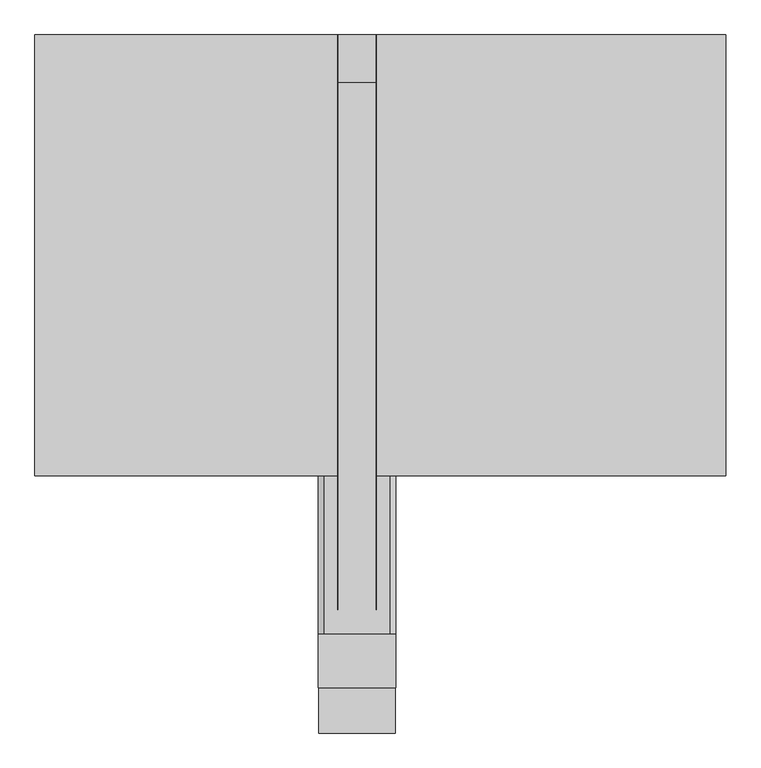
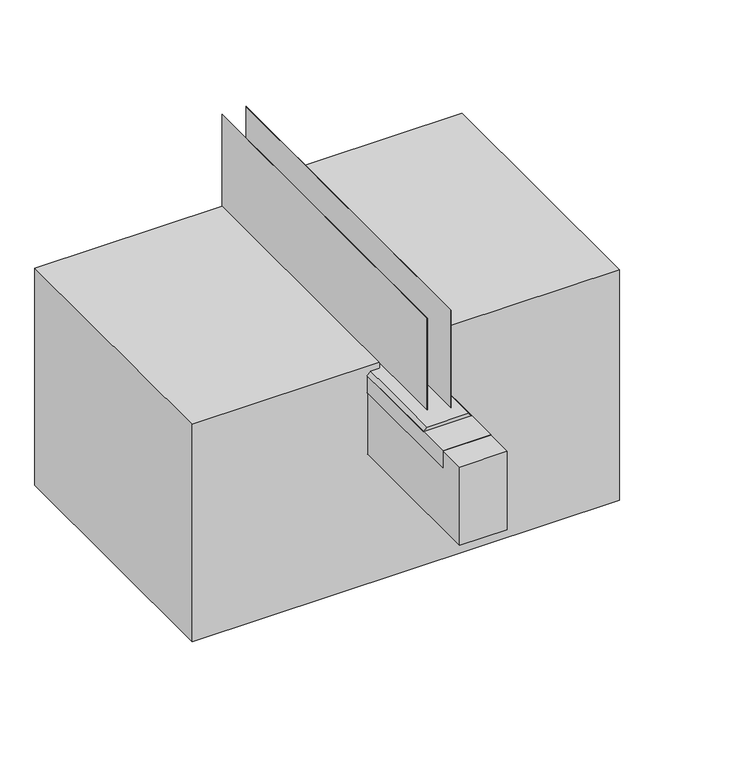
"""IFC4 building model written with IfcOpenShell, lengths in millimetres: proxy geometry, IMPER:IMPER:433934 : IMPER:IMPER:433934."""

from ifc_helpers import new_model, si_unit, frame, origin, place, context, project, spatial, polyline, outline, extrude, source, transform, mapped, element, save


def generic_models_f88ea9ae(model_context):
    return source(origin(), model_context, "Body", "SweptSolid", [
        extrude(outline(polyline([(-601.3780272, -223.9704105), (-572.523798, -252.8246398), (-572.523798, -601.1161813), (-601.3780272, -629.9704105), (-601.3780272, -223.9704105)])), frame((0.0, -2978.6796584, 0.0), z_axis=(0.0, 1.0, 0.0), x_axis=(0.0, 0.0, 1.0)), (0.0, 0.0, 1.0), 2874.5496779),
        extrude(outline(polyline([(-326.9704105, 145.8700195), (-325.9704105, 145.8700195), (-325.9704105, -2854.1299805), (-326.9704105, -2854.1299805), (-326.9704105, 145.8700195)])), frame((0.0, 0.0, -572.523798), z_axis=(0.0, 0.0, 1.0), x_axis=(1.0, 0.0, 0.0)), (0.0, 0.0, 1.0), 870.0),
        extrude(outline(polyline([(-527.9704105, 145.8700195), (-526.9704105, 145.8700195), (-526.9704105, -2854.1299805), (-527.9704105, -2854.1299805), (-527.9704105, 145.8700195)])), frame((0.0, 0.0, -520.527667), z_axis=(0.0, 0.0, 1.0), x_axis=(1.0, 0.0, 0.0)), (0.0, 0.0, 1.0), 818.003869),
        extrude(outline(polyline([(-604.3780272, -626.9704105), (-604.3780272, -226.9704105), (-754.3780272, -226.9704105), (-754.3780272, -223.9704105), (-601.3780272, -223.9704105), (-601.3780272, -629.9704105), (-754.3780272, -629.9704105), (-754.3780272, -626.9704105), (-604.3780272, -626.9704105)])), frame((0.0, -3261.3095935, 0.0), z_axis=(0.0, 1.0, 0.0), x_axis=(0.0, 0.0, 1.0)), (0.0, 0.0, 1.0), 3157.179613),
        extrude(outline(polyline([(-572.523798, -326.9704105), (-572.523798, -252.8246398), (-601.3780272, -223.9704105), (-754.3780272, -223.9704105), (-754.3780272, -226.9704105), (-1304.3780272, -226.9704105), (-1304.3780272, -626.9704105), (-754.3780272, -626.9704105), (-754.3780272, -629.9704105), (-601.3780272, -629.9704105), (-572.523798, -601.1161813), (-572.523798, -526.9704105), (-520.527667, -526.9704105), (-520.527667, -2108.6071009), (-2459.4927087, -2108.6071009), (-2459.4927087, 1498.0295895), (-402.523798, 1498.0295895), (-402.523798, -326.9704105), (-572.523798, -326.9704105)])), frame((0.0, -2154.1299805, 0.0), z_axis=(0.0, 1.0, 0.0), x_axis=(0.0, 0.0, 1.0)), (0.0, 0.0, 1.0), 2300.0),
        extrude(outline(polyline([(-626.9704105, 145.8700195), (-226.9704105, 145.8700195), (-226.9704105, -3498.0442835), (-626.9704105, -3498.0442835), (-626.9704105, 145.8700195)])), frame((0.0, 0.0, -1304.3780272), z_axis=(0.0, 0.0, 1.0), x_axis=(1.0, 0.0, 0.0)), (0.0, 0.0, 1.0), 700.0),
    ])


if __name__ == "__main__":
    model = new_model("IFC4")
    model_context = context("Model", 3, world=origin())
    ifc_project = project(units=[si_unit("LENGTHUNIT", "METRE", prefix="MILLI")], contexts=[model_context])
    site = spatial("IfcSite", under=ifc_project)
    building = spatial("IfcBuilding", under=site)
    placement = place(None, origin())
    generic_models_shape = generic_models_f88ea9ae(model_context)
    element("IfcBuildingElementProxy", 1, Name="IMPER:IMPER:433934 : IMPER:IMPER:433934", ObjectType="IMPER:IMPER:433934 : IMPER:IMPER:433934", at=placement, inside=building, context=model_context, shape_type="MappedRepresentation", body=[
        mapped(generic_models_shape, transform((0.0, 0.0, 0.0), x_axis=(1.0, 0.0, 0.0), y_axis=(0.0, 1.0, 0.0), z_axis=(0.0, 0.0, 1.0))),
    ])
    save(model, "model.ifc")
